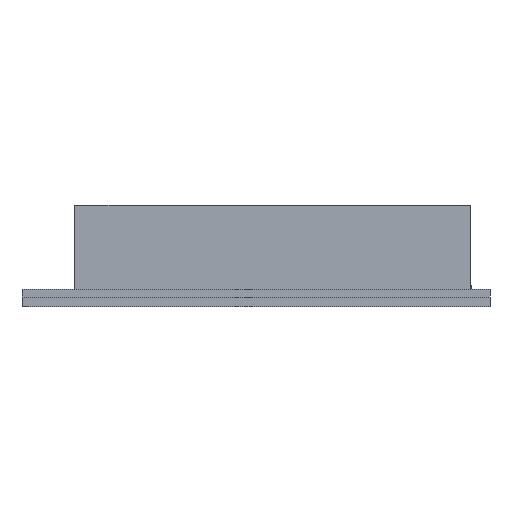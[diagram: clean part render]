
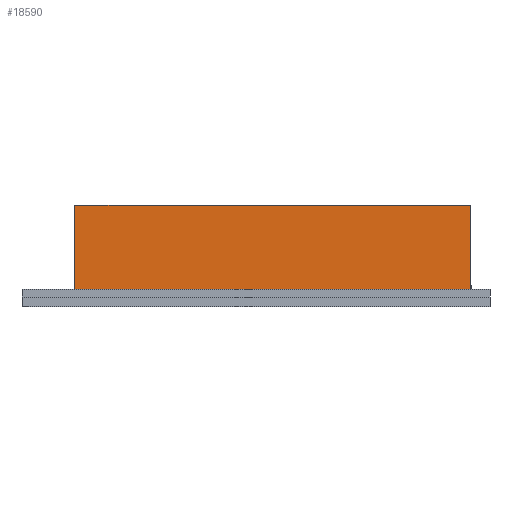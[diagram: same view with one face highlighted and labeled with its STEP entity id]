
A CAD part, left-side view. The second image highlights one B-rep face of the part: STEP entity #18590.
In plain terms, the highlighted planar face has unit normal (-1, 0, 0).
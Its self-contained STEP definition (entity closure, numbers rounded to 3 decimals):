
#159 = PLANE('',#160);
#160 = AXIS2_PLACEMENT_3D('',#161,#162,#163);
#161 = CARTESIAN_POINT('',(-0.3,45.35,1.6));
#162 = DIRECTION('',(0.,0.,-1.));
#163 = DIRECTION('',(1.,0.,0.));
#7847 = VERTEX_POINT('',#7848);
#7848 = CARTESIAN_POINT('',(-0.2,40.,1.6));
#7862 = PLANE('',#7863);
#7863 = AXIS2_PLACEMENT_3D('',#7864,#7865,#7866);
#7864 = CARTESIAN_POINT('',(-0.2,40.,10.3));
#7865 = DIRECTION('',(0.,-1.,0.));
#7866 = DIRECTION('',(0.,0.,-1.));
#7874 = EDGE_CURVE('',#7847,#7875,#7877,.T.);
#7875 = VERTEX_POINT('',#7876);
#7876 = CARTESIAN_POINT('',(-0.2,0.,1.6));
#7877 = SURFACE_CURVE('',#7878,(#7882,#7889),.PCURVE_S1.);
#7878 = LINE('',#7879,#7880);
#7879 = CARTESIAN_POINT('',(-0.2,42.675,1.6));
#7880 = VECTOR('',#7881,1.);
#7881 = DIRECTION('',(0.,-1.,0.));
#7882 = PCURVE('',#159,#7883);
#7883 = DEFINITIONAL_REPRESENTATION('',(#7884),#7888);
#7884 = LINE('',#7885,#7886);
#7885 = CARTESIAN_POINT('',(0.1,2.675));
#7886 = VECTOR('',#7887,1.);
#7887 = DIRECTION('',(0.,1.));
#7888 = ( GEOMETRIC_REPRESENTATION_CONTEXT(2) 
PARAMETRIC_REPRESENTATION_CONTEXT() REPRESENTATION_CONTEXT('2D SPACE',''
  ) );
#7889 = PCURVE('',#7890,#7895);
#7890 = PLANE('',#7891);
#7891 = AXIS2_PLACEMENT_3D('',#7892,#7893,#7894);
#7892 = CARTESIAN_POINT('',(-0.2,40.,10.3));
#7893 = DIRECTION('',(1.,0.,0.));
#7894 = DIRECTION('',(0.,0.,-1.));
#7895 = DEFINITIONAL_REPRESENTATION('',(#7896),#7900);
#7896 = LINE('',#7897,#7898);
#7897 = CARTESIAN_POINT('',(8.7,2.675));
#7898 = VECTOR('',#7899,1.);
#7899 = DIRECTION('',(0.,-1.));
#7900 = ( GEOMETRIC_REPRESENTATION_CONTEXT(2) 
PARAMETRIC_REPRESENTATION_CONTEXT() REPRESENTATION_CONTEXT('2D SPACE',''
  ) );
#7918 = PLANE('',#7919);
#7919 = AXIS2_PLACEMENT_3D('',#7920,#7921,#7922);
#7920 = CARTESIAN_POINT('',(-0.2,0.,10.3));
#7921 = DIRECTION('',(0.,-1.,0.));
#7922 = DIRECTION('',(0.,0.,-1.));
#18493 = VERTEX_POINT('',#18494);
#18494 = CARTESIAN_POINT('',(-0.2,40.,10.3));
#18508 = PLANE('',#18509);
#18509 = AXIS2_PLACEMENT_3D('',#18510,#18511,#18512);
#18510 = CARTESIAN_POINT('',(-0.2,40.,10.3));
#18511 = DIRECTION('',(0.,0.,-1.));
#18512 = DIRECTION('',(1.,0.,0.));
#18520 = EDGE_CURVE('',#18493,#7847,#18521,.T.);
#18521 = SURFACE_CURVE('',#18522,(#18526,#18533),.PCURVE_S1.);
#18522 = LINE('',#18523,#18524);
#18523 = CARTESIAN_POINT('',(-0.2,40.,10.3));
#18524 = VECTOR('',#18525,1.);
#18525 = DIRECTION('',(0.,0.,-1.));
#18526 = PCURVE('',#7862,#18527);
#18527 = DEFINITIONAL_REPRESENTATION('',(#18528),#18532);
#18528 = LINE('',#18529,#18530);
#18529 = CARTESIAN_POINT('',(0.,0.));
#18530 = VECTOR('',#18531,1.);
#18531 = DIRECTION('',(1.,0.));
#18532 = ( GEOMETRIC_REPRESENTATION_CONTEXT(2) 
PARAMETRIC_REPRESENTATION_CONTEXT() REPRESENTATION_CONTEXT('2D SPACE',''
  ) );
#18533 = PCURVE('',#7890,#18534);
#18534 = DEFINITIONAL_REPRESENTATION('',(#18535),#18539);
#18535 = LINE('',#18536,#18537);
#18536 = CARTESIAN_POINT('',(0.,0.));
#18537 = VECTOR('',#18538,1.);
#18538 = DIRECTION('',(1.,0.));
#18539 = ( GEOMETRIC_REPRESENTATION_CONTEXT(2) 
PARAMETRIC_REPRESENTATION_CONTEXT() REPRESENTATION_CONTEXT('2D SPACE',''
  ) );
#18590 = ADVANCED_FACE('',(#18591),#7890,.F.);
#18591 = FACE_BOUND('',#18592,.F.);
#18592 = EDGE_LOOP('',(#18593,#18594,#18617,#18638));
#18593 = ORIENTED_EDGE('',*,*,#18520,.F.);
#18594 = ORIENTED_EDGE('',*,*,#18595,.T.);
#18595 = EDGE_CURVE('',#18493,#18596,#18598,.T.);
#18596 = VERTEX_POINT('',#18597);
#18597 = CARTESIAN_POINT('',(-0.2,0.,10.3));
#18598 = SURFACE_CURVE('',#18599,(#18603,#18610),.PCURVE_S1.);
#18599 = LINE('',#18600,#18601);
#18600 = CARTESIAN_POINT('',(-0.2,40.,10.3));
#18601 = VECTOR('',#18602,1.);
#18602 = DIRECTION('',(0.,-1.,0.));
#18603 = PCURVE('',#7890,#18604);
#18604 = DEFINITIONAL_REPRESENTATION('',(#18605),#18609);
#18605 = LINE('',#18606,#18607);
#18606 = CARTESIAN_POINT('',(0.,0.));
#18607 = VECTOR('',#18608,1.);
#18608 = DIRECTION('',(0.,-1.));
#18609 = ( GEOMETRIC_REPRESENTATION_CONTEXT(2) 
PARAMETRIC_REPRESENTATION_CONTEXT() REPRESENTATION_CONTEXT('2D SPACE',''
  ) );
#18610 = PCURVE('',#18508,#18611);
#18611 = DEFINITIONAL_REPRESENTATION('',(#18612),#18616);
#18612 = LINE('',#18613,#18614);
#18613 = CARTESIAN_POINT('',(0.,0.));
#18614 = VECTOR('',#18615,1.);
#18615 = DIRECTION('',(0.,1.));
#18616 = ( GEOMETRIC_REPRESENTATION_CONTEXT(2) 
PARAMETRIC_REPRESENTATION_CONTEXT() REPRESENTATION_CONTEXT('2D SPACE',''
  ) );
#18617 = ORIENTED_EDGE('',*,*,#18618,.T.);
#18618 = EDGE_CURVE('',#18596,#7875,#18619,.T.);
#18619 = SURFACE_CURVE('',#18620,(#18624,#18631),.PCURVE_S1.);
#18620 = LINE('',#18621,#18622);
#18621 = CARTESIAN_POINT('',(-0.2,0.,10.3));
#18622 = VECTOR('',#18623,1.);
#18623 = DIRECTION('',(0.,0.,-1.));
#18624 = PCURVE('',#7890,#18625);
#18625 = DEFINITIONAL_REPRESENTATION('',(#18626),#18630);
#18626 = LINE('',#18627,#18628);
#18627 = CARTESIAN_POINT('',(0.,-40.));
#18628 = VECTOR('',#18629,1.);
#18629 = DIRECTION('',(1.,0.));
#18630 = ( GEOMETRIC_REPRESENTATION_CONTEXT(2) 
PARAMETRIC_REPRESENTATION_CONTEXT() REPRESENTATION_CONTEXT('2D SPACE',''
  ) );
#18631 = PCURVE('',#7918,#18632);
#18632 = DEFINITIONAL_REPRESENTATION('',(#18633),#18637);
#18633 = LINE('',#18634,#18635);
#18634 = CARTESIAN_POINT('',(0.,0.));
#18635 = VECTOR('',#18636,1.);
#18636 = DIRECTION('',(1.,0.));
#18637 = ( GEOMETRIC_REPRESENTATION_CONTEXT(2) 
PARAMETRIC_REPRESENTATION_CONTEXT() REPRESENTATION_CONTEXT('2D SPACE',''
  ) );
#18638 = ORIENTED_EDGE('',*,*,#7874,.F.);
